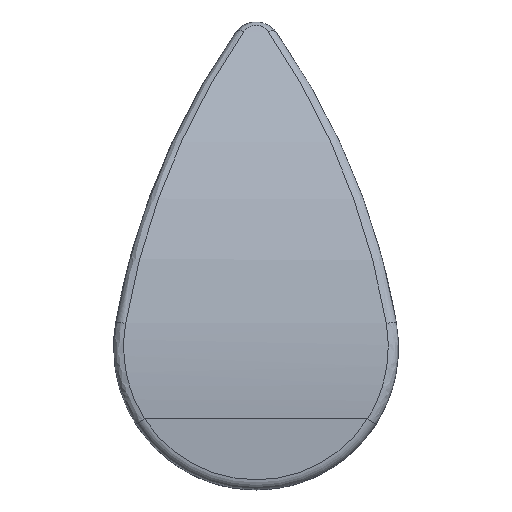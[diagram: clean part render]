
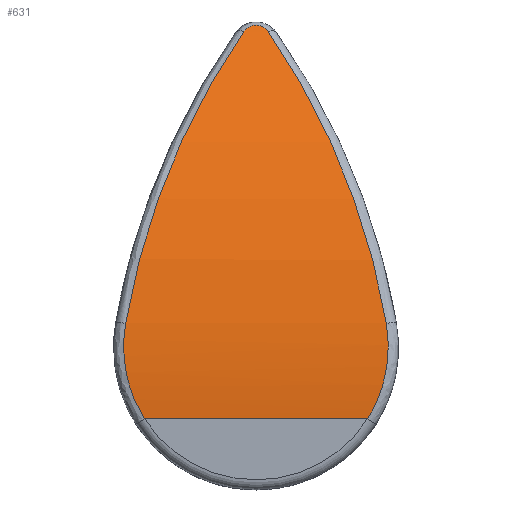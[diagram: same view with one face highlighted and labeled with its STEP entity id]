
A CAD part, top view. The second image highlights one B-rep face of the part: STEP entity #631.
In plain terms, the highlighted cylindrical face has radius 55 mm (diameter 110 mm), a partial arc.
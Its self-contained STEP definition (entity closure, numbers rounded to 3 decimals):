
#53=B_SPLINE_CURVE_WITH_KNOTS('',3,(#1478,#1479,#1480,#1481,#1482),
 .UNSPECIFIED.,.F.,.F.,(4,1,4),(-8.224,-7.673,-7.261),
 .UNSPECIFIED.);
#54=B_SPLINE_CURVE_WITH_KNOTS('',3,(#1484,#1485,#1486,#1487),
 .UNSPECIFIED.,.F.,.F.,(4,4),(7.261,7.261),
 .UNSPECIFIED.);
#56=B_SPLINE_CURVE_WITH_KNOTS('',3,(#1559,#1560,#1561,#1562,#1563),
 .UNSPECIFIED.,.F.,.F.,(4,1,4),(-3.381,-1.932,0.),
 .UNSPECIFIED.);
#58=B_SPLINE_CURVE_WITH_KNOTS('',3,(#1617,#1618,#1619,#1620,#1621,#1622,
#1623,#1624,#1625),.UNSPECIFIED.,.F.,.F.,(4,1,1,1,1,1,4),(-0.304,
-0.261,-0.174,-0.13,-0.087,
-0.054,0.),.UNSPECIFIED.);
#60=B_SPLINE_CURVE_WITH_KNOTS('',3,(#1663,#1664,#1665,#1666,#1667),
 .UNSPECIFIED.,.F.,.F.,(4,1,4),(-3.381,-1.449,0.),
 .UNSPECIFIED.);
#62=B_SPLINE_CURVE_WITH_KNOTS('',3,(#1699,#1700,#1701,#1702,#1703),
 .UNSPECIFIED.,.F.,.F.,(4,1,4),(-9.186,-8.774,-8.224),
 .UNSPECIFIED.);
#65=B_SPLINE_CURVE_WITH_KNOTS('',3,(#1754,#1755,#1756,#1757),
 .UNSPECIFIED.,.F.,.F.,(4,4),(-9.186,-9.186),
 .UNSPECIFIED.);
#66=B_SPLINE_CURVE_WITH_KNOTS('',3,(#1762,#1763,#1764,#1765,#1766,#1767),
 .UNSPECIFIED.,.F.,.F.,(4,2,4),(-3.962,-3.958,-3.955),
 .UNSPECIFIED.);
#67=B_SPLINE_CURVE_WITH_KNOTS('',3,(#1769,#1770,#1771,#1772,#1773,#1774),
 .UNSPECIFIED.,.F.,.F.,(4,2,4),(-1.472,-1.467,-1.462),
 .UNSPECIFIED.);
#96=CYLINDRICAL_SURFACE('',#707,55.);
#135=FACE_OUTER_BOUND('',#176,.T.);
#176=EDGE_LOOP('',(#577,#578,#579,#580,#581,#582,#583,#584,#585,#586));
#182=LINE('',#1776,#194);
#194=VECTOR('',#809,10.);
#285=VERTEX_POINT('',#1475);
#286=VERTEX_POINT('',#1477);
#287=VERTEX_POINT('',#1483);
#289=VERTEX_POINT('',#1557);
#291=VERTEX_POINT('',#1615);
#293=VERTEX_POINT('',#1661);
#294=VERTEX_POINT('',#1698);
#296=VERTEX_POINT('',#1710);
#297=VERTEX_POINT('',#1759);
#298=VERTEX_POINT('',#1760);
#367=EDGE_CURVE('',#285,#286,#53,.T.);
#368=EDGE_CURVE('',#287,#286,#54,.T.);
#371=EDGE_CURVE('',#289,#285,#56,.T.);
#374=EDGE_CURVE('',#291,#289,#58,.T.);
#377=EDGE_CURVE('',#293,#291,#60,.T.);
#379=EDGE_CURVE('',#294,#293,#62,.T.);
#382=EDGE_CURVE('',#296,#294,#65,.T.);
#384=EDGE_CURVE('',#298,#296,#66,.T.);
#386=EDGE_CURVE('',#287,#297,#67,.T.);
#387=EDGE_CURVE('',#298,#297,#182,.T.);
#577=ORIENTED_EDGE('',*,*,#379,.F.);
#578=ORIENTED_EDGE('',*,*,#382,.F.);
#579=ORIENTED_EDGE('',*,*,#384,.F.);
#580=ORIENTED_EDGE('',*,*,#387,.T.);
#581=ORIENTED_EDGE('',*,*,#386,.F.);
#582=ORIENTED_EDGE('',*,*,#368,.T.);
#583=ORIENTED_EDGE('',*,*,#367,.F.);
#584=ORIENTED_EDGE('',*,*,#371,.F.);
#585=ORIENTED_EDGE('',*,*,#374,.F.);
#586=ORIENTED_EDGE('',*,*,#377,.F.);
#631=ADVANCED_FACE('',(#135),#96,.T.);
#707=AXIS2_PLACEMENT_3D('',#1799,#832,#833);
#809=DIRECTION('',(1.,0.,0.));
#832=DIRECTION('center_axis',(1.,0.,0.));
#833=DIRECTION('ref_axis',(0.,0.687,0.727));
#1475=CARTESIAN_POINT('',(12.81,16.365,-2.59));
#1477=CARTESIAN_POINT('',(10.969,7.,-2.));
#1478=CARTESIAN_POINT('Ctrl Pts',(12.81,16.365,-2.59));
#1479=CARTESIAN_POINT('Ctrl Pts',(13.119,14.542,-2.318));
#1480=CARTESIAN_POINT('Ctrl Pts',(12.996,11.218,-1.995));
#1481=CARTESIAN_POINT('Ctrl Pts',(11.705,8.179,-1.974));
#1482=CARTESIAN_POINT('Ctrl Pts',(10.969,7.,-2.));
#1483=CARTESIAN_POINT('',(10.967,6.997,-2.));
#1484=CARTESIAN_POINT('Ctrl Pts',(10.967,6.997,-2.));
#1485=CARTESIAN_POINT('Ctrl Pts',(10.967,6.998,-2.));
#1486=CARTESIAN_POINT('Ctrl Pts',(10.968,6.999,-2.));
#1487=CARTESIAN_POINT('Ctrl Pts',(10.969,7.,-2.));
#1557=CARTESIAN_POINT('',(1.181,45.055,-16.128));
#1559=CARTESIAN_POINT('Ctrl Pts',(1.181,45.055,-16.128));
#1560=CARTESIAN_POINT('Ctrl Pts',(3.413,41.814,-13.208));
#1561=CARTESIAN_POINT('Ctrl Pts',(8.336,33.334,-7.174));
#1562=CARTESIAN_POINT('Ctrl Pts',(11.723,22.758,-3.546));
#1563=CARTESIAN_POINT('Ctrl Pts',(12.81,16.365,-2.59));
#1615=CARTESIAN_POINT('',(-1.181,45.055,-16.128));
#1617=CARTESIAN_POINT('Ctrl Pts',(-1.181,45.055,-16.128));
#1618=CARTESIAN_POINT('Ctrl Pts',(-1.114,45.152,-16.216));
#1619=CARTESIAN_POINT('Ctrl Pts',(-0.878,45.427,-16.465));
#1620=CARTESIAN_POINT('Ctrl Pts',(-0.373,45.686,-16.706));
#1621=CARTESIAN_POINT('Ctrl Pts',(0.223,45.686,-16.706));
#1622=CARTESIAN_POINT('Ctrl Pts',(0.594,45.567,-16.595));
#1623=CARTESIAN_POINT('Ctrl Pts',(0.93,45.357,-16.402));
#1624=CARTESIAN_POINT('Ctrl Pts',(1.098,45.176,-16.238));
#1625=CARTESIAN_POINT('Ctrl Pts',(1.181,45.055,-16.128));
#1661=CARTESIAN_POINT('',(-12.81,16.365,-2.59));
#1663=CARTESIAN_POINT('Ctrl Pts',(-12.81,16.365,-2.59));
#1664=CARTESIAN_POINT('Ctrl Pts',(-11.723,22.759,-3.546));
#1665=CARTESIAN_POINT('Ctrl Pts',(-8.337,33.333,-7.173));
#1666=CARTESIAN_POINT('Ctrl Pts',(-3.413,41.814,-13.208));
#1667=CARTESIAN_POINT('Ctrl Pts',(-1.181,45.055,-16.128));
#1698=CARTESIAN_POINT('',(-10.969,7.,-2.));
#1699=CARTESIAN_POINT('Ctrl Pts',(-10.969,7.,-2.));
#1700=CARTESIAN_POINT('Ctrl Pts',(-11.705,8.179,-1.974));
#1701=CARTESIAN_POINT('Ctrl Pts',(-12.996,11.218,-1.995));
#1702=CARTESIAN_POINT('Ctrl Pts',(-13.119,14.542,-2.318));
#1703=CARTESIAN_POINT('Ctrl Pts',(-12.81,16.365,-2.59));
#1710=CARTESIAN_POINT('',(-10.967,6.997,-2.));
#1754=CARTESIAN_POINT('Ctrl Pts',(-10.967,6.997,-2.));
#1755=CARTESIAN_POINT('Ctrl Pts',(-10.967,6.998,-2.));
#1756=CARTESIAN_POINT('Ctrl Pts',(-10.968,6.999,-2.));
#1757=CARTESIAN_POINT('Ctrl Pts',(-10.969,7.,-2.));
#1759=CARTESIAN_POINT('',(10.954,7.,-2.));
#1760=CARTESIAN_POINT('',(-10.954,7.,-2.));
#1762=CARTESIAN_POINT('Ctrl Pts',(-10.954,7.,-2.));
#1763=CARTESIAN_POINT('Ctrl Pts',(-10.957,7.,-2.));
#1764=CARTESIAN_POINT('Ctrl Pts',(-10.959,7.,-2.));
#1765=CARTESIAN_POINT('Ctrl Pts',(-10.963,6.999,-2.));
#1766=CARTESIAN_POINT('Ctrl Pts',(-10.965,6.998,-2.));
#1767=CARTESIAN_POINT('Ctrl Pts',(-10.967,6.997,-2.));
#1769=CARTESIAN_POINT('Ctrl Pts',(10.967,6.997,-2.));
#1770=CARTESIAN_POINT('Ctrl Pts',(10.965,6.998,-2.));
#1771=CARTESIAN_POINT('Ctrl Pts',(10.963,6.999,-2.));
#1772=CARTESIAN_POINT('Ctrl Pts',(10.959,7.,-2.));
#1773=CARTESIAN_POINT('Ctrl Pts',(10.957,7.,-2.));
#1774=CARTESIAN_POINT('Ctrl Pts',(10.954,7.,-2.));
#1776=CARTESIAN_POINT('',(0.,7.,-2.));
#1799=CARTESIAN_POINT('Origin',(0.,8.236,-56.986));
